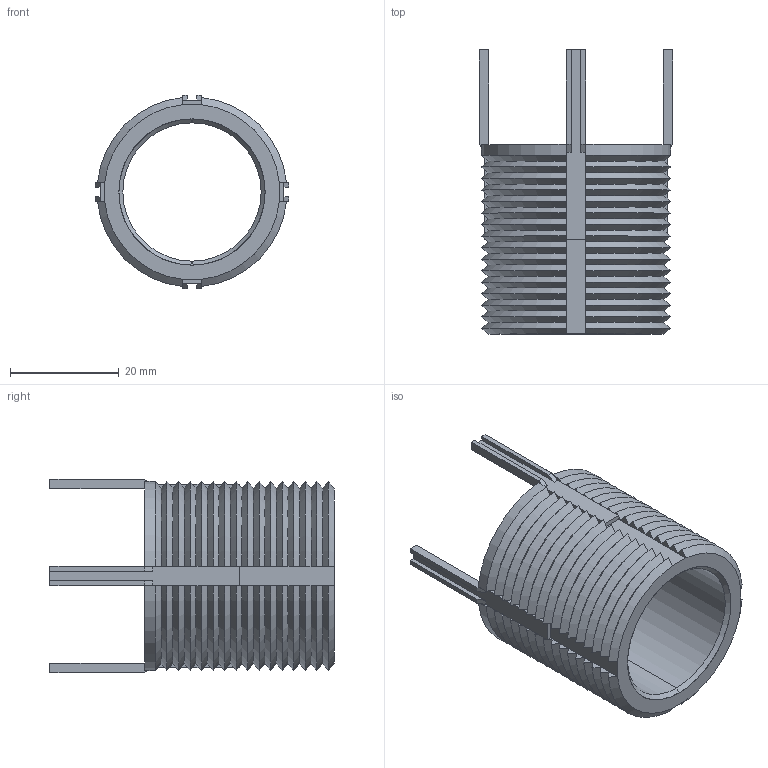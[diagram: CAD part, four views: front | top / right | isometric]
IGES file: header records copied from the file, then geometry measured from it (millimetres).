
Start section: SolidWorks IGES file using analytic representation for surfaces
Global section: file name: C:\Users\IanO\Desktop\TR1575\TR1575_v2_20230420_IGES\TR1575.66112.igs; native system: SolidWorks 2019; preprocessor: SolidWorks 2019; author: IanO; date: 230420.093552; units: inch
Bounding box: 35.48 x 52.2 x 35.48 mm (x, y, z)
Surface area: 10616.9 mm2 (no closed solid volume)
Topology: 0 solids, 0 shells, 316 faces, 1448 edges, 1448 vertices
Faces by surface type: bspline 182, revolution 134
